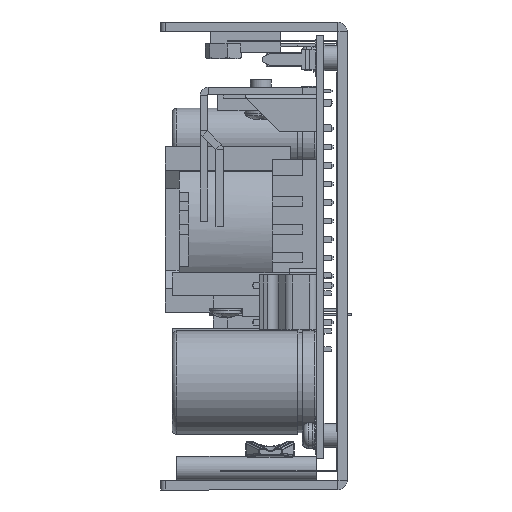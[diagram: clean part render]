
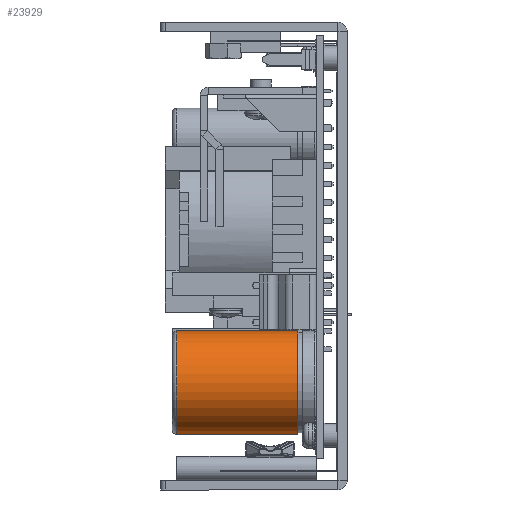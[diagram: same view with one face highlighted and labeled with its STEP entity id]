
A CAD part, left-side view. The second image highlights one B-rep face of the part: STEP entity #23929.
In plain terms, the highlighted cylindrical face has radius 11.1 mm (diameter 22.2 mm), a partial arc.
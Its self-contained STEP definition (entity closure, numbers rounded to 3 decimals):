
#3486 = CARTESIAN_POINT ( 'NONE',  ( 0., 4., -11.1 ) ) ;
#4670 = DIRECTION ( 'NONE',  ( 0., 1., 0. ) ) ;
#10033 = VERTEX_POINT ( 'NONE', #46908 ) ;
#10056 = CARTESIAN_POINT ( 'NONE',  ( 0., 4., 0. ) ) ;
#10062 = EDGE_CURVE ( 'NONE', #32074, #10033, #17828, .T. ) ;
#14192 = DIRECTION ( 'NONE',  ( 0., 0., 1. ) ) ;
#14798 = CARTESIAN_POINT ( 'NONE',  ( 0., 9.728, -11.1 ) ) ;
#17111 = EDGE_CURVE ( 'NONE', #10033, #41367, #42970, .T. ) ;
#17828 = LINE ( 'NONE', #14798, #28621 ) ;
#18110 = ORIENTED_EDGE ( 'NONE', *, *, #10062, .F. ) ;
#18263 = ORIENTED_EDGE ( 'NONE', *, *, #19107, .T. ) ;
#18475 = CIRCLE ( 'NONE', #34726, 11.1 ) ;
#19107 = EDGE_CURVE ( 'NONE', #44087, #41367, #36982, .T. ) ;
#19957 = CARTESIAN_POINT ( 'NONE',  ( 0., 9.728, 0. ) ) ;
#20163 = ORIENTED_EDGE ( 'NONE', *, *, #50199, .T. ) ;
#20595 = CYLINDRICAL_SURFACE ( 'NONE', #34072, 11.1 ) ;
#21527 = CARTESIAN_POINT ( 'NONE',  ( 0., 30., 0. ) ) ;
#23929 = ADVANCED_FACE ( 'NONE', ( #42282 ), #20595, .T. ) ;
#24661 = ORIENTED_EDGE ( 'NONE', *, *, #17111, .F. ) ;
#25631 = DIRECTION ( 'NONE',  ( 0., 0., 1. ) ) ;
#28621 = VECTOR ( 'NONE', #39223, 1000. ) ;
#29112 = CARTESIAN_POINT ( 'NONE',  ( 0., 9.728, 11.1 ) ) ;
#32074 = VERTEX_POINT ( 'NONE', #3486 ) ;
#34072 = AXIS2_PLACEMENT_3D ( 'NONE', #19957, #52424, #48495 ) ;
#34726 = AXIS2_PLACEMENT_3D ( 'NONE', #10056, #38613, #14192 ) ;
#35303 = CARTESIAN_POINT ( 'NONE',  ( 0., 30., 11.1 ) ) ;
#36982 = LINE ( 'NONE', #29112, #47870 ) ;
#38613 = DIRECTION ( 'NONE',  ( 0., 1., 0. ) ) ;
#39223 = DIRECTION ( 'NONE',  ( 0., 1., 0. ) ) ;
#40422 = EDGE_LOOP ( 'NONE', ( #18110, #20163, #18263, #24661 ) ) ;
#41367 = VERTEX_POINT ( 'NONE', #35303 ) ;
#42282 = FACE_OUTER_BOUND ( 'NONE', #40422, .T. ) ;
#42970 = CIRCLE ( 'NONE', #43366, 11.1 ) ;
#43366 = AXIS2_PLACEMENT_3D ( 'NONE', #21527, #50110, #25631 ) ;
#44087 = VERTEX_POINT ( 'NONE', #49670 ) ;
#46908 = CARTESIAN_POINT ( 'NONE',  ( 0., 30., -11.1 ) ) ;
#47870 = VECTOR ( 'NONE', #4670, 1000. ) ;
#48495 = DIRECTION ( 'NONE',  ( 0., 0., 1. ) ) ;
#49670 = CARTESIAN_POINT ( 'NONE',  ( 0., 4., 11.1 ) ) ;
#50110 = DIRECTION ( 'NONE',  ( 0., 1., 0. ) ) ;
#50199 = EDGE_CURVE ( 'NONE', #32074, #44087, #18475, .T. ) ;
#52424 = DIRECTION ( 'NONE',  ( 0., 1., 0. ) ) ;
